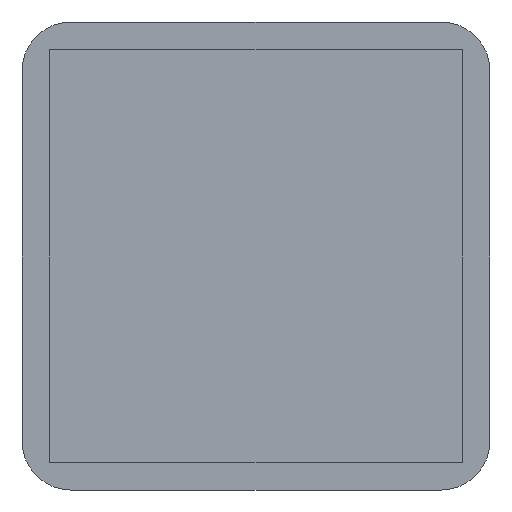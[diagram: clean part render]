
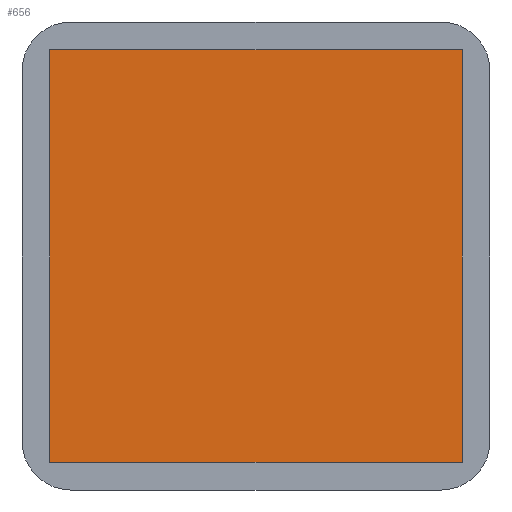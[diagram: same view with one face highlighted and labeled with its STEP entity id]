
A CAD part, front view. The second image highlights one B-rep face of the part: STEP entity #656.
In plain terms, the highlighted planar face has unit normal (0, -1, 0).
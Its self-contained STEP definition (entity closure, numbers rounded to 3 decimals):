
#7 = LINE ( 'NONE', #1292, #755 ) ;
#62 = ORIENTED_EDGE ( 'NONE', *, *, #1735, .F. ) ;
#63 = VECTOR ( 'NONE', #614, 1000. ) ;
#213 = VECTOR ( 'NONE', #1363, 1000. ) ;
#218 = CARTESIAN_POINT ( 'NONE',  ( -3.413, -13.936, 14.725 ) ) ;
#223 = DIRECTION ( 'NONE',  ( 0., 0., 1. ) ) ;
#235 = DIRECTION ( 'NONE',  ( 0., 1., 0. ) ) ;
#290 = CARTESIAN_POINT ( 'NONE',  ( -3.413, -13.936, 14.725 ) ) ;
#319 = EDGE_CURVE ( 'NONE', #948, #1075, #425, .T. ) ;
#365 = PLANE ( 'NONE',  #1636 ) ;
#404 = LINE ( 'NONE', #290, #63 ) ;
#425 = LINE ( 'NONE', #1194, #1206 ) ;
#518 = CARTESIAN_POINT ( 'NONE',  ( 11.587, -13.936, -0.275 ) ) ;
#614 = DIRECTION ( 'NONE',  ( 1., 0., 0. ) ) ;
#656 = ADVANCED_FACE ( 'NONE', ( #1138 ), #365, .F. ) ;
#755 = VECTOR ( 'NONE', #1258, 1000. ) ;
#816 = VERTEX_POINT ( 'NONE', #218 ) ;
#838 = LINE ( 'NONE', #1596, #213 ) ;
#849 = EDGE_LOOP ( 'NONE', ( #1983, #2157, #1516, #62 ) ) ;
#948 = VERTEX_POINT ( 'NONE', #1738 ) ;
#1075 = VERTEX_POINT ( 'NONE', #518 ) ;
#1138 = FACE_OUTER_BOUND ( 'NONE', #849, .T. ) ;
#1179 = DIRECTION ( 'NONE',  ( 0., 0., -1. ) ) ;
#1194 = CARTESIAN_POINT ( 'NONE',  ( 11.587, -13.936, -0.275 ) ) ;
#1206 = VECTOR ( 'NONE', #1179, 1000. ) ;
#1255 = CARTESIAN_POINT ( 'NONE',  ( -3.413, -13.936, -0.275 ) ) ;
#1258 = DIRECTION ( 'NONE',  ( 0., 0., 1. ) ) ;
#1292 = CARTESIAN_POINT ( 'NONE',  ( -3.413, -13.936, -0.275 ) ) ;
#1363 = DIRECTION ( 'NONE',  ( -1., 0., 0. ) ) ;
#1403 = EDGE_CURVE ( 'NONE', #2329, #816, #7, .T. ) ;
#1516 = ORIENTED_EDGE ( 'NONE', *, *, #319, .F. ) ;
#1596 = CARTESIAN_POINT ( 'NONE',  ( -3.413, -13.936, -0.275 ) ) ;
#1636 = AXIS2_PLACEMENT_3D ( 'NONE', #1884, #235, #223 ) ;
#1735 = EDGE_CURVE ( 'NONE', #816, #948, #404, .T. ) ;
#1738 = CARTESIAN_POINT ( 'NONE',  ( 11.587, -13.936, 14.725 ) ) ;
#1884 = CARTESIAN_POINT ( 'NONE',  ( -3.413, -13.936, 14.725 ) ) ;
#1983 = ORIENTED_EDGE ( 'NONE', *, *, #1403, .F. ) ;
#2069 = EDGE_CURVE ( 'NONE', #1075, #2329, #838, .T. ) ;
#2157 = ORIENTED_EDGE ( 'NONE', *, *, #2069, .F. ) ;
#2329 = VERTEX_POINT ( 'NONE', #1255 ) ;
